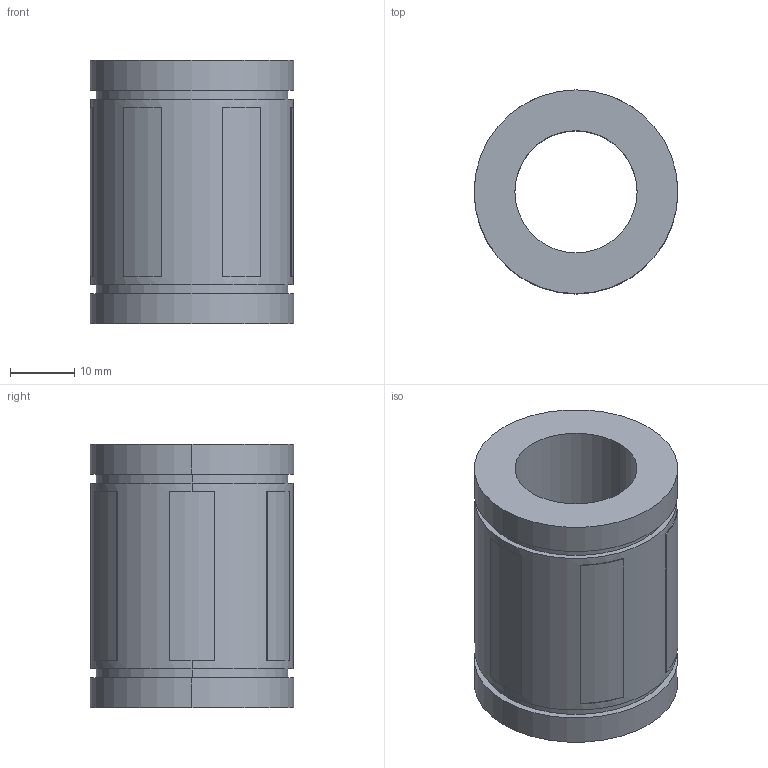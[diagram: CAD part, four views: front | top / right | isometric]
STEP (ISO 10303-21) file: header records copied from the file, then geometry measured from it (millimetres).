
FILE_DESCRIPTION((''),'2;1');
FILE_NAME('C:\Documents and Settings\ｿﾀﾀ蠑ｷ1\ｹﾙﾅﾁ ﾈｭｸ饅\ｺﾎﾇｰﾆﾄﾀﾏ\ﾁｦﾇｰ\LMBS__UU\LMBS12UU.stp','2005-06-15T13:59:04',('ｿﾀﾀ蠑ｷ1'),(''),'Autodesk Inventor 9','Autodesk Inventor 9','');
FILE_SCHEMA(('AUTOMOTIVE_DESIGN { 1 0 10303 214 1 1 1 1 }'));
Length unit declared in the file: millimetre
Products named in the file (1): LMBS__
Bounding box: 31.75 x 31.75 x 41 mm (x, y, z)
Volume: 20289.2 mm3; surface area: 7919.9 mm2
Topology: 1 solids, 1 shells, 48 faces, 114 edges, 76 vertices
Faces by surface type: plane 28, cylinder 16, bspline 4
Entity records: 1463 total; most frequent: CARTESIAN_POINT 279, DIRECTION 256, ORIENTED_EDGE 228, EDGE_CURVE 114, AXIS2_PLACEMENT_3D 97, VERTEX_POINT 76, VECTOR 62, LINE 62
